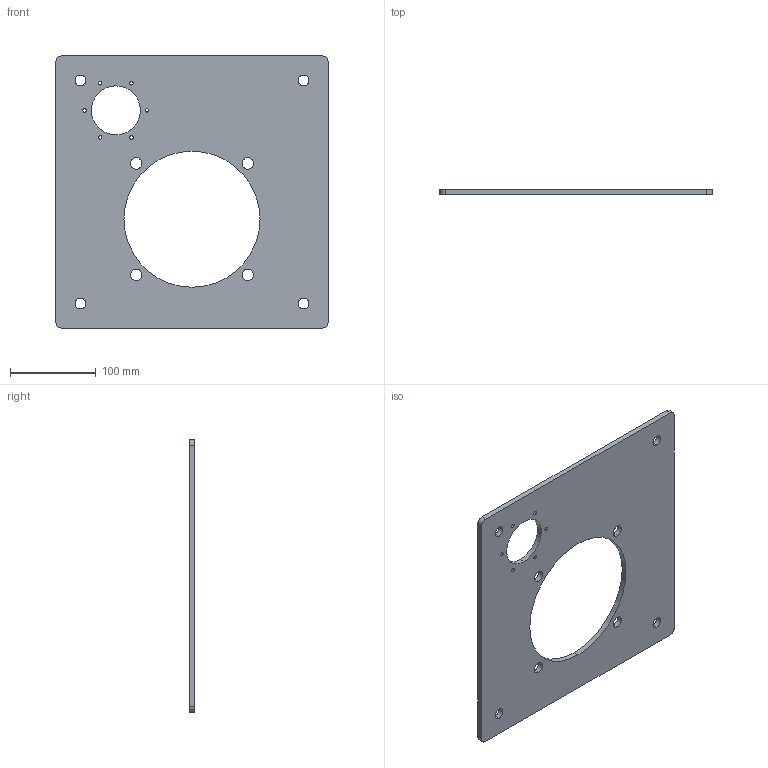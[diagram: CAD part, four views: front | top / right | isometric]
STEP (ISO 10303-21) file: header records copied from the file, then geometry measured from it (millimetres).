
FILE_DESCRIPTION (( 'STEP AP214' ), '1' );
FILE_NAME ('TVL-929.STEP', '2021-04-09T14:53:10', ( '' ), ( '' ), 'SwSTEP 2.0', 'SolidWorks 2013', '' );
FILE_SCHEMA (( 'AUTOMOTIVE_DESIGN' ));
Length unit declared in the file: inch
Products named in the file (1): TVL-929
Bounding box: 317.5 x 6.35 x 317.5 mm (x, y, z)
Volume: 490602.7 mm3; surface area: 169393.9 mm2
Topology: 1 solids, 1 shells, 42 faces, 120 edges, 80 vertices
Faces by surface type: cylinder 36, plane 6
Entity records: 1676 total; most frequent: DIRECTION 278, CARTESIAN_POINT 243, ORIENTED_EDGE 240, EDGE_CURVE 120, AXIS2_PLACEMENT_3D 115, VERTEX_POINT 80, EDGE_LOOP 74, CIRCLE 72
